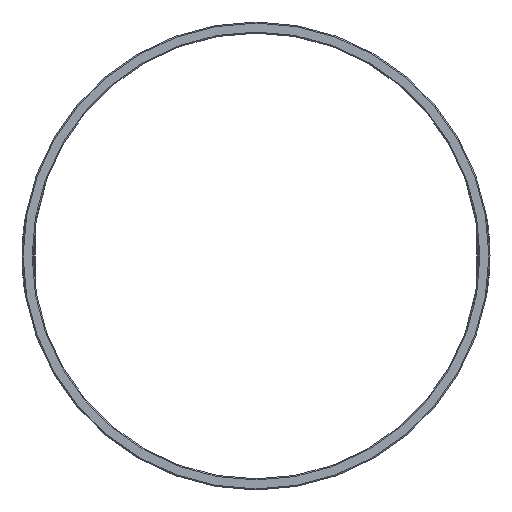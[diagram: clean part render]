
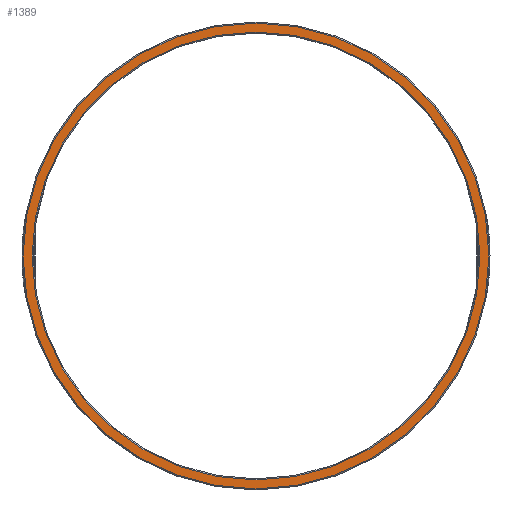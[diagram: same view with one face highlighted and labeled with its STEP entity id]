
A CAD part, left-side view. The second image highlights one B-rep face of the part: STEP entity #1389.
In plain terms, the highlighted planar face has unit normal (-1, 0, 0).
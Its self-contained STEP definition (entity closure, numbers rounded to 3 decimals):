
#1358=CARTESIAN_POINT('',(-27.75,20.1,0.));
#1359=VERTEX_POINT('',#1358);
#1360=CARTESIAN_POINT('',(-27.75,0.0,0.0));
#1361=DIRECTION('',(-1.0,0.0,0.0));
#1362=DIRECTION('',(0.0,-1.0,0.0));
#1363=AXIS2_PLACEMENT_3D('',#1360,#1361,#1362);
#1364=CIRCLE('',#1363,20.1);
#1365=EDGE_CURVE('',#1359,#1359,#1364,.T.);
#1370=CARTESIAN_POINT('',(-27.75,20.5,0.0));
#1371=DIRECTION('',(-1.0,0.0,0.0));
#1372=DIRECTION('',(0.0,0.0,1.0));
#1373=AXIS2_PLACEMENT_3D('',#1370,#1371,#1372);
#1374=PLANE('',#1373);
#1375=CARTESIAN_POINT('',(-27.75,20.9,0.));
#1376=VERTEX_POINT('',#1375);
#1377=CARTESIAN_POINT('',(-27.75,0.0,0.0));
#1378=DIRECTION('',(1.0,0.0,0.0));
#1379=DIRECTION('',(0.0,-1.0,0.0));
#1380=AXIS2_PLACEMENT_3D('',#1377,#1378,#1379);
#1381=CIRCLE('',#1380,20.9);
#1382=EDGE_CURVE('',#1376,#1376,#1381,.T.);
#1383=ORIENTED_EDGE('',*,*,#1382,.F.);
#1384=EDGE_LOOP('',(#1383));
#1385=FACE_OUTER_BOUND('',#1384,.T.);
#1386=ORIENTED_EDGE('',*,*,#1365,.F.);
#1387=EDGE_LOOP('',(#1386));
#1388=FACE_BOUND('',#1387,.T.);
#1389=ADVANCED_FACE('',(#1385,#1388),#1374,.T.);
